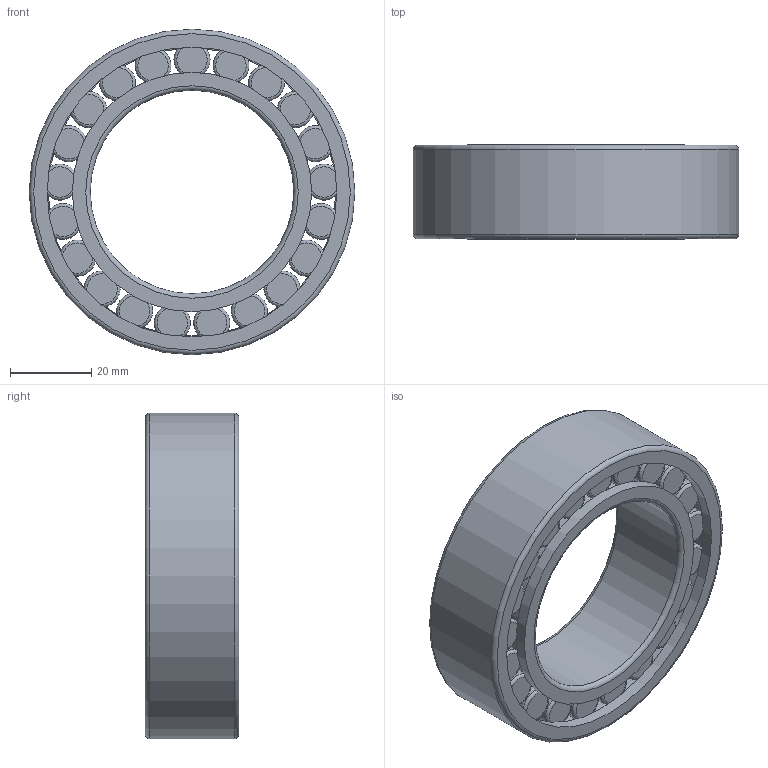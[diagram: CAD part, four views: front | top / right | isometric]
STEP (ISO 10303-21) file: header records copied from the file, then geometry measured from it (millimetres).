
FILE_DESCRIPTION(/* description */ (''),/* implementation_level */ '2;1');
FILE_NAME(/* name */ 'C:\Users\OUREHANEKD\Desktop\Ložiská\MODELY\JRVL\NCF\NCF30\NCF33--\NCF3010V.stp',/* time_stamp */ '2016-09-09T12:34:05+02:00',/* author */ ('OUREHANEKD'),/* organization */ (''),/* preprocessor_version */ 'ST-DEVELOPER v15.6',/* originating_system */ 'Autodesk Inventor 2015',/* authorisation */ '');
FILE_SCHEMA (('AUTOMOTIVE_DESIGN { 1 0 10303 214 3 1 1 }'));
Length unit declared in the file: millimetre
Products named in the file (5): NCF3010V-01; NCF3010V-02; NCF3010V-kr; NCF3010V-roller; NCF3010V
Assembly tree (24 placements, depth 2):
  NCF3010V
    NCF3010V-01
    NCF3010V-02
    NCF3010V-kr
    NCF3010V-roller  x21
Bounding box: 80 x 23 x 80 mm (x, y, z)
Volume: 53467.5 mm3; surface area: 36437.9 mm2
Topology: 24 solids, 24 shells, 132 faces, 190 edges, 111 vertices
Faces by surface type: plane 53, torus 47, cylinder 32
Full cylindrical faces by diameter (mm): 8.85 x21, 50 x1, 56.15 x1, 58.805 x2, 70.664 x1, 71.195 x1, 73.85 x2, 74.85 x2, 80 x1
Entity records: 952 total; most frequent: DIRECTION 184, CARTESIAN_POINT 123, AXIS2_PLACEMENT_3D 92, EDGE_LOOP 62, ORIENTED_EDGE 62, STYLED_ITEM 36, FACE_OUTER_BOUND 32, ADVANCED_FACE 32
